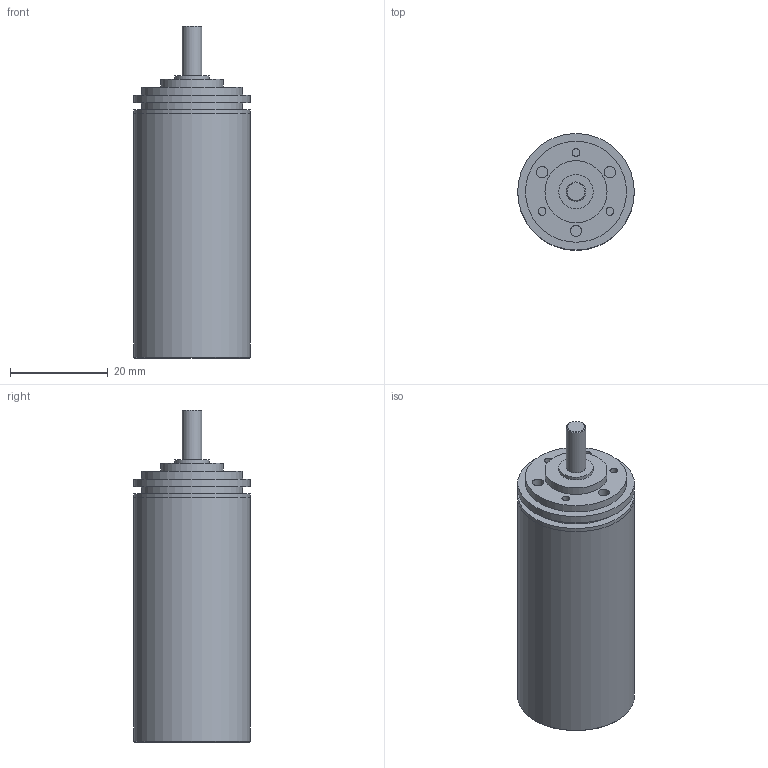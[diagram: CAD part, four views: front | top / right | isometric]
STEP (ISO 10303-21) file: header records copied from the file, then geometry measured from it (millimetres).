
FILE_DESCRIPTION(/* description */ (''),/* implementation_level */ '2;1');
FILE_NAME(/* name */ '22-2_6.stp',/* time_stamp */ '2016-08-26T11:15:35+02:00',/* author */ ('DR. FRITZ FAULHABER GmbH & Co. KG'),/* organization */ ('DR. FRITZ FAULHABER GmbH & Co. KG'),/* preprocessor_version */ 'ST-DEVELOPER v16',/* originating_system */ 'SIEMENS PLM Software NX 10.0',/* authorisation */ '');
FILE_SCHEMA (('AUTOMOTIVE_DESIGN { 1 0 10303 214 3 1 1 1 }'));
Length unit declared in the file: millimetre
Products named in the file (1): H00000856_A
Bounding box: 23.8 x 23.8 x 67.8 mm (x, y, z)
Volume: 16702.5 mm3; surface area: 7095.8 mm2
Topology: 1 solids, 1 shells, 42 faces, 65 edges, 43 vertices
Faces by surface type: plane 20, cylinder 19, cone 3
Full cylindrical faces by diameter (mm): 1.6 x3, 2.329 x3, 3.5 x1, 4 x1, 4.5 x1, 7 x2, 12.7 x1, 20.63 x2, 22 x1, 23.79 x1, 23.8 x3
Entity records: 858 total; most frequent: DIRECTION 168, CARTESIAN_POINT 125, AXIS2_PLACEMENT_3D 84, EDGE_LOOP 82, ORIENTED_EDGE 82, FACE_BOUND 74, ADVANCED_FACE 42, VERTEX_POINT 41
